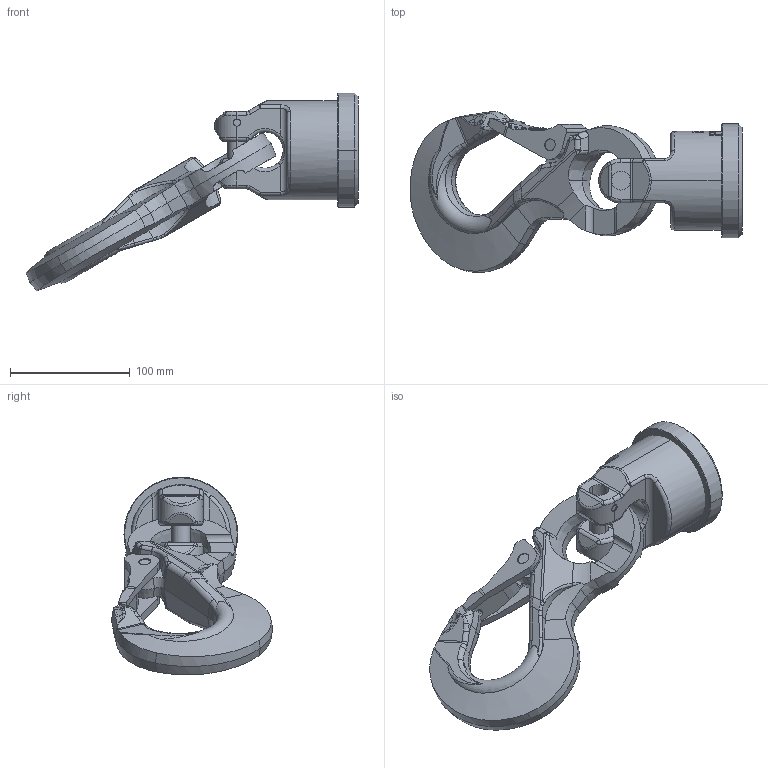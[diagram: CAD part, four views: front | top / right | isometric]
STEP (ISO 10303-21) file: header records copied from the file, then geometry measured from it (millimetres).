
FILE_DESCRIPTION((''),'2;1');
FILE_NAME('001-M31395-P-40_ASM','2018-04-26T',('Anja.Joas'),(''),'PRO/ENGINEER BY PARAMETRIC TECHNOLOGY CORPORATION, 2011490','PRO/ENGINEER BY PARAMETRIC TECHNOLOGY CORPORATION, 2011490','');
FILE_SCHEMA(('CONFIG_CONTROL_DESIGN'));
Length unit declared in the file: millimetre
Products named in the file (6): 001-M31395-P-20; 001-M31395-P-50; 001-M31479-001; 001-M31480-001; 001-M31479-002_ASM; 001-M31395-P-40_ASM
Assembly tree (5 placements, depth 3):
  001-M31395-P-40_ASM
    001-M31395-P-20
    001-M31395-P-50
    001-M31479-002_ASM
      001-M31479-001
      001-M31480-001
Bounding box: 277.04 x 134.49 x 164.9 mm (x, y, z)
Volume: 837698.8 mm3; surface area: 116899.3 mm2
Topology: 4 solids, 4 shells, 717 faces, 1894 edges, 1186 vertices
Faces by surface type: plane 379, cylinder 130, bspline 88, sphere 42, cone 42, torus 36
Entity records: 26813 total; most frequent: CARTESIAN_POINT 10200, ORIENTED_EDGE 3732, DIRECTION 3043, EDGE_CURVE 1866, VERTEX_POINT 1186, AXIS2_PLACEMENT_3D 1110, VECTOR 823, LINE 823
